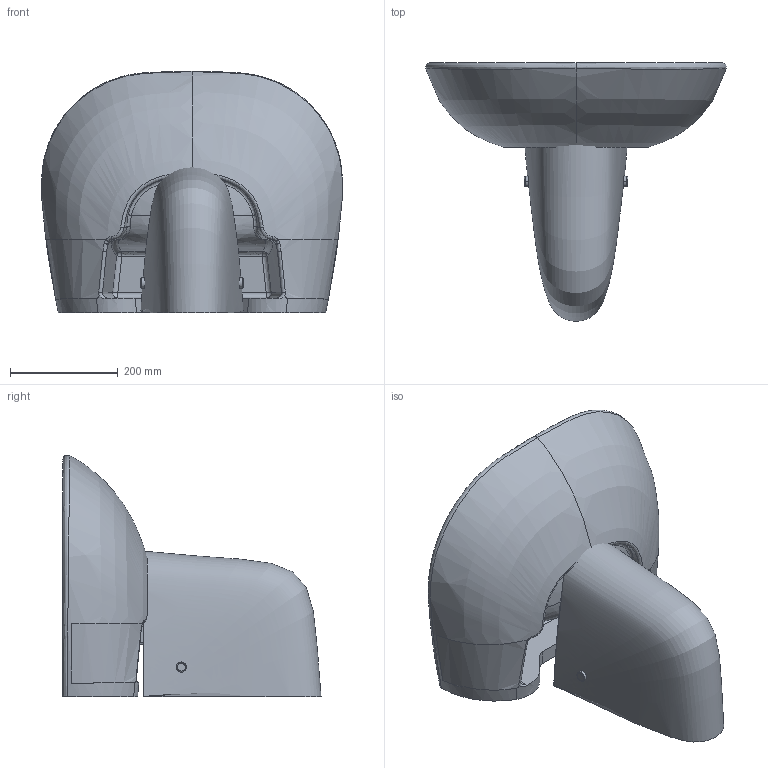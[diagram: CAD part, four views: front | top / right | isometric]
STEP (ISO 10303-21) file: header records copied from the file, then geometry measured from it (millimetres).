
FILE_DESCRIPTION (( 'STEP AP203' ), '1' );
FILE_NAME ('SD055-00CB00E-0000+SD265-00CB00E-0000.STEP', '2022-05-12T06:16:38', ( '' ), ( '' ), 'SwSTEP 2.0', 'SolidWorks 2021', '' );
FILE_SCHEMA (( 'CONFIG_CONTROL_DESIGN' ));
Products named in the file (1): SD055-00CB00E-0000+SD265-00CB00E-0000
Bounding box: 558.99 x 478.97 x 448.13 mm (x, y, z)
Volume: 12728088.6 mm3; surface area: 1164738.9 mm2
Topology: 5 solids, 5 shells, 269 faces, 700 edges, 431 vertices
Faces by surface type: bspline 138, cylinder 59, plane 52, torus 10, sphere 8, cone 2
Entity records: 97633 total; most frequent: CARTESIAN_POINT 92215, ORIENTED_EDGE 1380, DIRECTION 732, EDGE_CURVE 690, VERTEX_POINT 431, B_SPLINE_CURVE_WITH_KNOTS 357, AXIS2_PLACEMENT_3D 294, EDGE_LOOP 283
